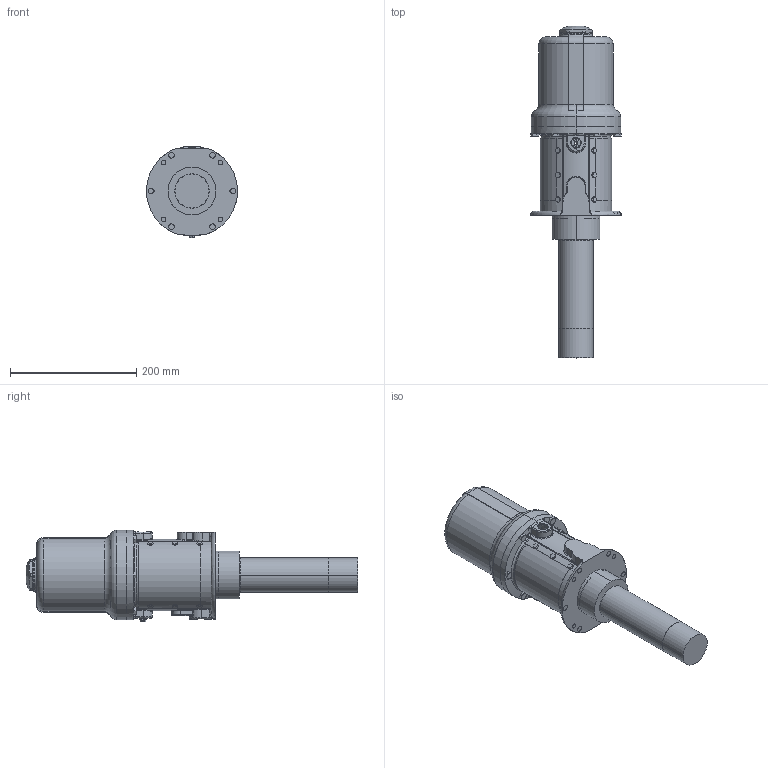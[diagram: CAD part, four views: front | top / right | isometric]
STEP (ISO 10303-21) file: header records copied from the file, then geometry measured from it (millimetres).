
FILE_DESCRIPTION((''),'2;1');
FILE_NAME('203876-EN-ZAK_PRT','2024-03-22T09:56:20',('qtmwp1'),(''),'CREO PARAMETRIC BY PTC INC, 2023424','CREO PARAMETRIC BY PTC INC, 2023424','');
FILE_SCHEMA(('CONFIG_CONTROL_DESIGN'));
Length unit declared in the file: inch
Products named in the file (1): 203876-EN-ZAK_PRT
Bounding box: 143.86 x 524.9 x 144.7 mm (x, y, z)
Surface area: 219021.3 mm2 (no closed solid volume)
Topology: 0 solids, 56 shells, 402 faces, 1208 edges, 813 vertices
Faces by surface type: cylinder 141, plane 134, bspline 61, cone 44, torus 22
Entity records: 17835 total; most frequent: CARTESIAN_POINT 8001, ORIENTED_EDGE 1977, DIRECTION 1850, EDGE_CURVE 1208, VERTEX_POINT 813, AXIS2_PLACEMENT_3D 692, VECTOR 466, LINE 466
